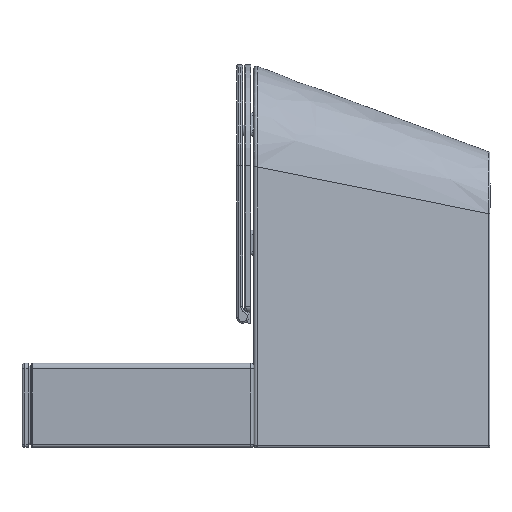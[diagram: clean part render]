
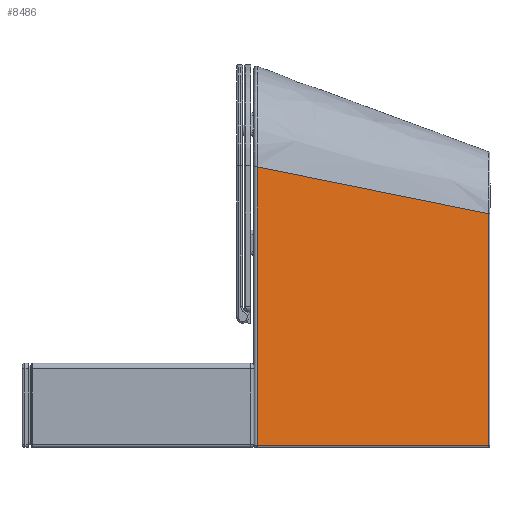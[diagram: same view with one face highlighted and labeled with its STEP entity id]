
A CAD part, left-side view. The second image highlights one B-rep face of the part: STEP entity #8486.
In plain terms, the highlighted planar face has unit normal (-0.986, -0.164, 0).
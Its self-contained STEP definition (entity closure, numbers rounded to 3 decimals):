
#189 = ORIENTED_EDGE ( 'NONE', *, *, #2917, .T. ) ;
#241 = LINE ( 'NONE', #2389, #5192 ) ;
#282 = VERTEX_POINT ( 'NONE', #9182 ) ;
#584 = ORIENTED_EDGE ( 'NONE', *, *, #2404, .T. ) ;
#614 = VECTOR ( 'NONE', #4806, 1000. ) ;
#665 = PLANE ( 'NONE',  #4769 ) ;
#1681 = LINE ( 'NONE', #3933, #2950 ) ;
#1731 = EDGE_CURVE ( 'NONE', #8591, #7045, #1681, .T. ) ;
#1816 = ORIENTED_EDGE ( 'NONE', *, *, #1731, .T. ) ;
#1856 = LINE ( 'NONE', #5459, #614 ) ;
#2389 = CARTESIAN_POINT ( 'NONE',  ( -180., 0., -147. ) ) ;
#2404 = EDGE_CURVE ( 'NONE', #282, #5532, #241, .T. ) ;
#2623 = CARTESIAN_POINT ( 'NONE',  ( -110.418, -417.493, 265. ) ) ;
#2766 = DIRECTION ( 'NONE',  ( 0., 0., -1. ) ) ;
#2917 = EDGE_CURVE ( 'NONE', #7045, #282, #1856, .T. ) ;
#2950 = VECTOR ( 'NONE', #3183, 1000. ) ;
#3183 = DIRECTION ( 'NONE',  ( -0.161, 0.967, 0.196 ) ) ;
#3631 = EDGE_CURVE ( 'NONE', #5532, #8591, #5343, .T. ) ;
#3669 = CARTESIAN_POINT ( 'NONE',  ( -180., 0., 350. ) ) ;
#3933 = CARTESIAN_POINT ( 'NONE',  ( -145., -210., 307.5 ) ) ;
#3944 = DIRECTION ( 'NONE',  ( 0., 0., 1. ) ) ;
#4769 = AXIS2_PLACEMENT_3D ( 'NONE', #3669, #6522, #2766 ) ;
#4806 = DIRECTION ( 'NONE',  ( 0., 0., -1. ) ) ;
#4927 = FACE_OUTER_BOUND ( 'NONE', #7951, .T. ) ;
#5192 = VECTOR ( 'NONE', #8104, 1000. ) ;
#5305 = CARTESIAN_POINT ( 'NONE',  ( -179.03, -5.822, 348.822 ) ) ;
#5343 = LINE ( 'NONE', #2623, #6662 ) ;
#5459 = CARTESIAN_POINT ( 'NONE',  ( -179.03, -5.822, 350. ) ) ;
#5532 = VERTEX_POINT ( 'NONE', #8394 ) ;
#6522 = DIRECTION ( 'NONE',  ( -0.986, -0.164, 0. ) ) ;
#6576 = CARTESIAN_POINT ( 'NONE',  ( -110.418, -417.493, 265.507 ) ) ;
#6662 = VECTOR ( 'NONE', #3944, 1000. ) ;
#7045 = VERTEX_POINT ( 'NONE', #5305 ) ;
#7910 = ORIENTED_EDGE ( 'NONE', *, *, #3631, .T. ) ;
#7951 = EDGE_LOOP ( 'NONE', ( #584, #7910, #1816, #189 ) ) ;
#8104 = DIRECTION ( 'NONE',  ( 0.164, -0.986, 0. ) ) ;
#8394 = CARTESIAN_POINT ( 'NONE',  ( -110.418, -417.493, -147. ) ) ;
#8486 = ADVANCED_FACE ( 'NONE', ( #4927 ), #665, .T. ) ;
#8591 = VERTEX_POINT ( 'NONE', #6576 ) ;
#9182 = CARTESIAN_POINT ( 'NONE',  ( -179.03, -5.822, -147. ) ) ;
